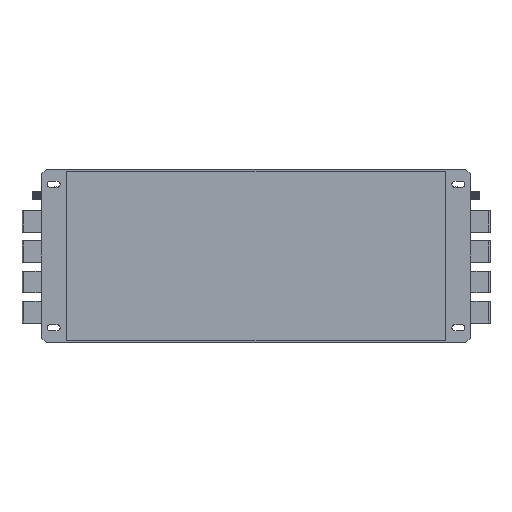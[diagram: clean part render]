
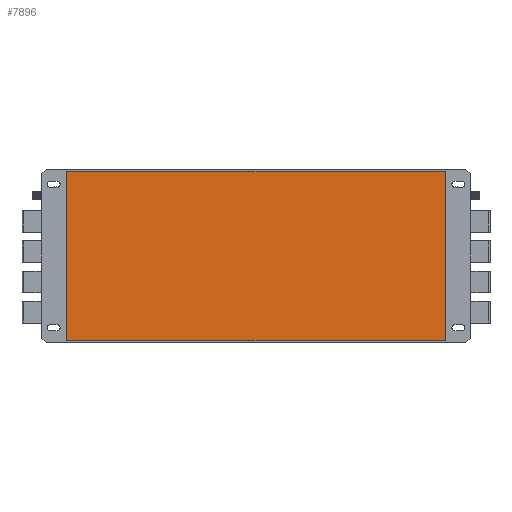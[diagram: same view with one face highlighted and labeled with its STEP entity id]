
A CAD part, front view. The second image highlights one B-rep face of the part: STEP entity #7896.
In plain terms, the highlighted planar face has unit normal (0, -1, 0) as drawn and (0, 0, -1) by its records, which use the part's own axes.
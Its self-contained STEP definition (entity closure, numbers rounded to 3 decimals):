
#230 = VERTEX_POINT ( 'NONE', #1336 ) ;
#496 = PLANE ( 'NONE',  #3855 ) ;
#889 = LINE ( 'NONE', #4539, #7396 ) ;
#1336 = CARTESIAN_POINT ( 'NONE',  ( -218.5, -98., 0. ) ) ;
#1651 = CARTESIAN_POINT ( 'NONE',  ( -218.5, 98., 0. ) ) ;
#1998 = LINE ( 'NONE', #5628, #10875 ) ;
#2007 = DIRECTION ( 'NONE',  ( 1., 0., 0. ) ) ;
#2192 = EDGE_CURVE ( 'NONE', #2449, #9777, #6536, .T. ) ;
#2449 = VERTEX_POINT ( 'NONE', #1651 ) ;
#3291 = CARTESIAN_POINT ( 'NONE',  ( -218.5, 98., 0. ) ) ;
#3855 = AXIS2_PLACEMENT_3D ( 'NONE', #4137, #7760, #11410 ) ;
#4137 = CARTESIAN_POINT ( 'NONE',  ( 0., 0., 0. ) ) ;
#4539 = CARTESIAN_POINT ( 'NONE',  ( -218.5, -98., 0. ) ) ;
#5032 = EDGE_CURVE ( 'NONE', #2449, #230, #11466, .T. ) ;
#5628 = CARTESIAN_POINT ( 'NONE',  ( 218.5, 98., 0. ) ) ;
#6416 = ORIENTED_EDGE ( 'NONE', *, *, #5032, .F. ) ;
#6536 = LINE ( 'NONE', #10169, #11406 ) ;
#6923 = DIRECTION ( 'NONE',  ( 0., -1., 0. ) ) ;
#7396 = VECTOR ( 'NONE', #8166, 1000. ) ;
#7760 = DIRECTION ( 'NONE',  ( 0., 0., 1. ) ) ;
#7896 = ADVANCED_FACE ( 'NONE', ( #8656 ), #496, .F. ) ;
#8166 = DIRECTION ( 'NONE',  ( 1., 0., 0. ) ) ;
#8656 = FACE_OUTER_BOUND ( 'NONE', #10128, .T. ) ;
#9245 = DIRECTION ( 'NONE',  ( 0., -1., 0. ) ) ;
#9777 = VERTEX_POINT ( 'NONE', #10799 ) ;
#9780 = ORIENTED_EDGE ( 'NONE', *, *, #9830, .F. ) ;
#9827 = ORIENTED_EDGE ( 'NONE', *, *, #11547, .T. ) ;
#9830 = EDGE_CURVE ( 'NONE', #230, #9886, #889, .T. ) ;
#9886 = VERTEX_POINT ( 'NONE', #10969 ) ;
#10128 = EDGE_LOOP ( 'NONE', ( #6416, #11693, #9827, #9780 ) ) ;
#10154 = VECTOR ( 'NONE', #6923, 1000. ) ;
#10169 = CARTESIAN_POINT ( 'NONE',  ( -218.5, 98., 0. ) ) ;
#10799 = CARTESIAN_POINT ( 'NONE',  ( 218.5, 98., 0. ) ) ;
#10875 = VECTOR ( 'NONE', #9245, 1000. ) ;
#10969 = CARTESIAN_POINT ( 'NONE',  ( 218.5, -98., 0. ) ) ;
#11406 = VECTOR ( 'NONE', #2007, 1000. ) ;
#11410 = DIRECTION ( 'NONE',  ( 1., 0., 0. ) ) ;
#11466 = LINE ( 'NONE', #3291, #10154 ) ;
#11547 = EDGE_CURVE ( 'NONE', #9777, #9886, #1998, .T. ) ;
#11693 = ORIENTED_EDGE ( 'NONE', *, *, #2192, .T. ) ;
